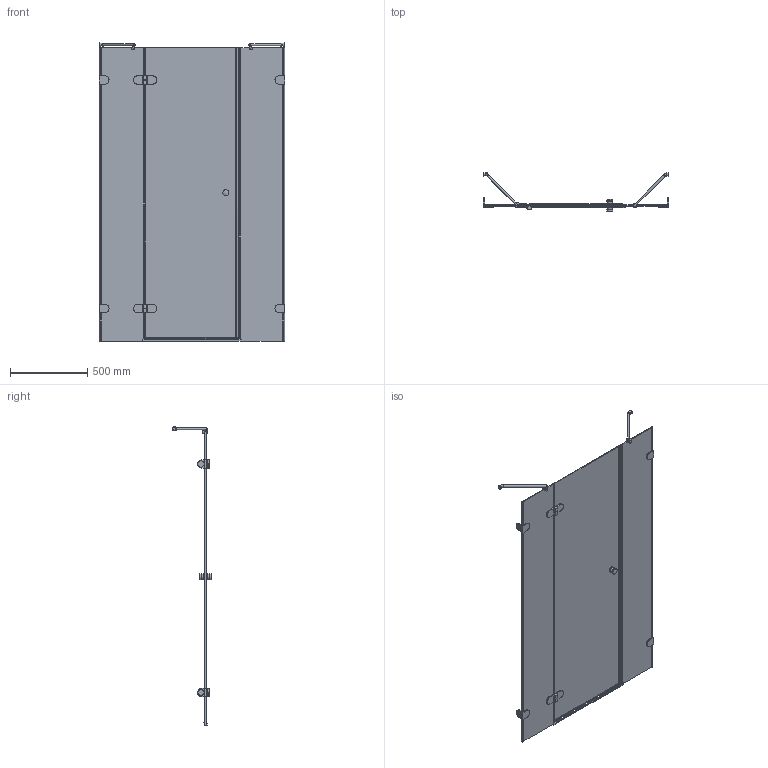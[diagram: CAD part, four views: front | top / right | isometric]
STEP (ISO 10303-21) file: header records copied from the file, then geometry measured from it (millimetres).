
FILE_DESCRIPTION(/* description */ (''),/* implementation_level */ '2;1');
FILE_NAME(/* name */ 'E:\Работа\Сергей\Душевые кабинки\! Работа\! Задания\Lux door gk-003\LUX DOOR GK-003\LUX DOOR GK-003 левая модель\LUX DOOR GK-003 ЛЕВАЯ-3D.stp',/* time_stamp */ '2018-01-08T10:52:37+03:00',/* author */ ('PC'),/* organization */ (''),/* preprocessor_version */ 'ST-DEVELOPER v15.2',/* originating_system */ 'Autodesk Inventor 2014',/* authorisation */ '');
FILE_SCHEMA (('AUTOMOTIVE_DESIGN { 1 0 10303 214 3 1 1 }'));
Length unit declared in the file: millimetre
Products named in the file (1): LUX DOOR GK-003 ЛЕВАЯ-3D
Bounding box: 1200 x 254.4 x 1931.5 mm (x, y, z)
Volume: 16681076.7 mm3; surface area: 4930810.3 mm2
Topology: 5 solids, 5 shells, 663 faces, 1660 edges, 1034 vertices
Faces by surface type: plane 454, cylinder 159, torus 22, sphere 12, bspline 12, cone 4
Full cylindrical faces by diameter (mm): 12 x2, 15 x2, 20 x4, 26 x2, 35 x4, 38 x4, 40 x4
Entity records: 20456 total; most frequent: CARTESIAN_POINT 4132, DIRECTION 3229, ORIENTED_EDGE 3176, EDGE_CURVE 1588, LINE 1139, VECTOR 1139, AXIS2_PLACEMENT_3D 1045, VERTEX_POINT 1006
